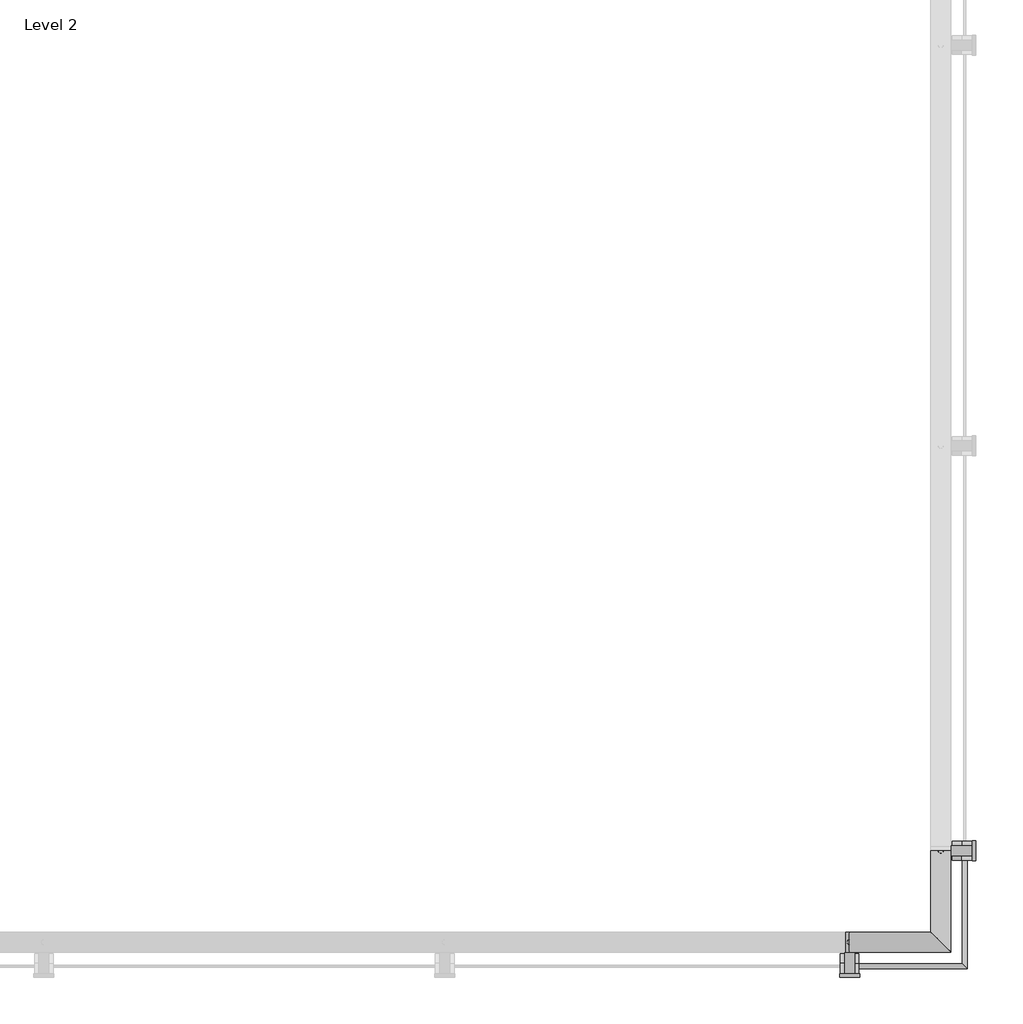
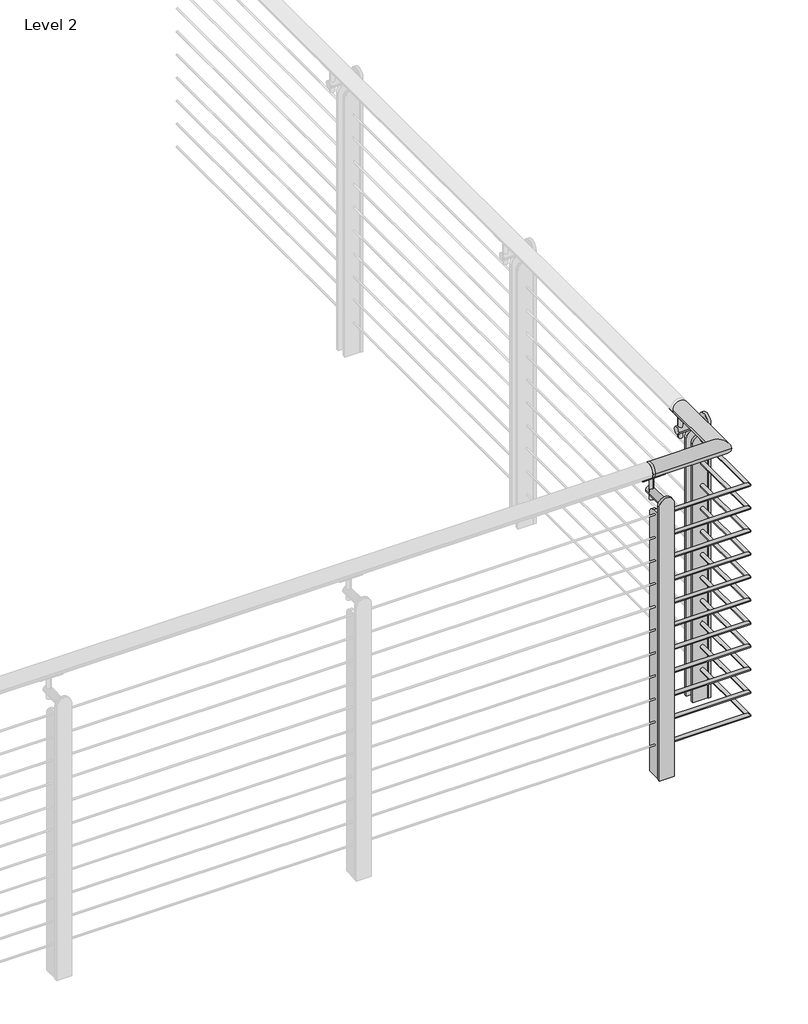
# One storey, part 11 of 12: 1 railing.
"""IFC4 building model written with IfcOpenShell, lengths in millimetres."""

from ifc_helpers import new_model, si_unit, point, frame, frame_2d, origin, place, context, project, spatial, polyline, circle_curve, ellipse_curve, trimmed, segment, composite_curve, outline, extrude, element, save
from ifc_brep_helpers import plane_surface, cylinder_surface, advanced_brep

model = new_model("IFC4")

# Units and contexts
model_context = context("Model", 3, world=origin())
ifc_project = project(units=[si_unit("LENGTHUNIT", "METRE", prefix="MILLI")], contexts=[model_context])

# Site, building, storey
site = spatial("IfcSite", under=ifc_project)
building = spatial("IfcBuilding", under=site)
storey = spatial("IfcBuildingStorey", under=building, Name="Level 2", Elevation=3048.0)

# Railing
placement = place(None, origin())
element("IfcRailing", 1, ObjectType="VIVA-TEE-Cable-Weld Mount-Corner", at=placement, inside=storey, context=model_context, shape_type="SolidModel", body=[
    advanced_brep(
    [(-4005.475548, -1067.8784511, 4102.1), (-4005.475548, -1118.6784511, 4102.1), (-3748.300548, -1118.6784511, 4102.1), (-3799.100548, -1067.8784511, 4102.1), (-4015.9071725, -1118.6784511, 4102.1), (-4015.9071725, -1067.8784511, 4102.1), (-3748.300548, -861.5034511, 4102.1), (-3799.100548, -861.5034511, 4102.1)],
    [
        (0, 1, circle_curve(frame((-4005.475548, -1093.2784511, 4102.1), z_axis=(1.0, 0.0, 0.0), x_axis=(0.0, 1.0, 0.0)), 25.4)),
        (1, 2),
        (2, 3, ellipse_curve(frame((-3773.700548, -1093.2784511, 4102.1), z_axis=(-0.7071067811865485, -0.7071067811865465, 0.0), x_axis=(-0.7071067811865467, 0.7071067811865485, 0.0)), 35.9210245, 25.4)),
        (3, 0),
        (1, 0, circle_curve(frame((-4005.475548, -1093.2784511, 4102.1), z_axis=(1.0, 0.0, 0.0), x_axis=(0.0, 1.0, 0.0)), 25.4)),
        (3, 2, ellipse_curve(frame((-3773.700548, -1093.2784511, 4102.1), z_axis=(-0.7071067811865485, -0.7071067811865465, 0.0), x_axis=(-0.7071067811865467, 0.7071067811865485, 0.0)), 35.9210245, 25.4)),
        (4, 5, circle_curve(frame((-4015.9071725, -1093.2784511, 4102.1), z_axis=(-1.0, 0.0, 0.0), x_axis=(0.0, 1.0, 0.0)), 25.4)),
        (5, 4, circle_curve(frame((-4015.9071725, -1093.2784511, 4102.1), z_axis=(-1.0, 0.0, 0.0), x_axis=(0.0, 1.0, 0.0)), 25.4)),
        (4, 1),
        (0, 5),
        (6, 7, circle_curve(frame((-3773.700548, -861.5034511, 4102.1), z_axis=(0.0, 1.0, 0.0), x_axis=(-1.0, 0.0, 0.0)), 25.4)),
        (7, 6, circle_curve(frame((-3773.700548, -861.5034511, 4102.1), z_axis=(0.0, 1.0, 0.0), x_axis=(-1.0, 0.0, 0.0)), 25.4)),
        (2, 6),
        (7, 3),
    ],
    [
        cylinder_surface(frame((-4005.475548, -1093.2784511, 4102.1), z_axis=(-1.0, 0.0, 0.0), x_axis=(0.0, 1.0, 0.0)), 25.4),
        plane_surface(frame((-4015.9071725, -1093.2784511, 4127.5), z_axis=(-1.0, 0.0, 0.0), x_axis=(0.0, 1.0, 0.0))),
        cylinder_surface(frame((-4015.9071725, -1093.2784511, 4102.1), z_axis=(-1.0, 0.0, 0.0), x_axis=(0.0, 1.0, 0.0)), 25.4),
        plane_surface(frame((-3773.700548, -861.5034511, 4127.5), z_axis=(0.0, 1.0, 0.0), x_axis=(0.0, 0.0, 1.0))),
        cylinder_surface(frame((-3773.700548, -1093.2784511, 4102.1), z_axis=(0.0, -1.0, 0.0), x_axis=(-1.0, 0.0, 0.0)), 25.4),
    ],
    [
        (0, [[1, 2, 3, 4]]),
        (0, [[5, -4, 6, -2]]),
        (1, [[7, 8]]),
        (2, [[-7, 9, -1, 10]]),
        (2, [[-8, -10, -5, -9]]),
        (3, [[11, 12]]),
        (4, [[-3, 13, -12, 14]]),
        (4, [[-6, -14, -11, -13]]),
    ],
),
    advanced_brep(
    [(-4005.475548, -1147.2534511, 3981.45), (-4005.475548, -1159.9534511, 3981.45), (-3719.725548, -1147.2534511, 3981.45), (-3707.025548, -1159.9534511, 3981.45), (-3719.725548, -861.5034511, 3981.45), (-3707.025548, -861.5034511, 3981.45)],
    [
        (0, 1, circle_curve(frame((-4005.475548, -1153.6034511, 3981.45), z_axis=(-1.0, 0.0, 0.0), x_axis=(0.0, -1.0, 0.0)), 6.35)),
        (1, 0, circle_curve(frame((-4005.475548, -1153.6034511, 3981.45), z_axis=(-1.0, 0.0, 0.0), x_axis=(0.0, -1.0, 0.0)), 6.35)),
        (0, 2),
        (2, 3, ellipse_curve(frame((-3713.375548, -1153.6034511, 3981.45), z_axis=(-0.7071067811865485, -0.7071067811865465, 0.0), x_axis=(-0.7071067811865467, 0.7071067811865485, 0.0)), 8.9802561, 6.35)),
        (3, 1),
        (3, 2, ellipse_curve(frame((-3713.375548, -1153.6034511, 3981.45), z_axis=(-0.7071067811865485, -0.7071067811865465, 0.0), x_axis=(-0.7071067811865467, 0.7071067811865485, 0.0)), 8.9802561, 6.35)),
        (4, 5, circle_curve(frame((-3713.375548, -861.5034511, 3981.45), z_axis=(0.0, 1.0, 0.0), x_axis=(1.0, 0.0, 0.0)), 6.35)),
        (5, 4, circle_curve(frame((-3713.375548, -861.5034511, 3981.45), z_axis=(0.0, 1.0, 0.0), x_axis=(1.0, 0.0, 0.0)), 6.35)),
        (2, 4),
        (5, 3),
    ],
    [
        plane_surface(frame((-4005.475548, -1153.6034511, 3987.8), z_axis=(-1.0, 0.0, 0.0), x_axis=(0.0, 1.0, 0.0))),
        cylinder_surface(frame((-4005.475548, -1153.6034511, 3981.45), z_axis=(-1.0, 0.0, 0.0), x_axis=(0.0, -1.0, 0.0)), 6.35),
        plane_surface(frame((-3713.375548, -861.5034511, 3987.8), z_axis=(0.0, 1.0, 0.0), x_axis=(0.0, 0.0, 1.0))),
        cylinder_surface(frame((-3713.375548, -1153.6034511, 3981.45), z_axis=(0.0, -1.0, 0.0), x_axis=(1.0, 0.0, 0.0)), 6.35),
    ],
    [
        (0, [[1, 2]]),
        (1, [[-1, 3, 4, 5]]),
        (1, [[-2, -5, 6, -3]]),
        (2, [[7, 8]]),
        (3, [[-4, 9, -8, 10]]),
        (3, [[-6, -10, -7, -9]]),
    ],
),
    advanced_brep(
    [(-4005.475548, -1147.2534511, 3898.9), (-4005.475548, -1159.9534511, 3898.9), (-3719.725548, -1147.2534511, 3898.9), (-3707.025548, -1159.9534511, 3898.9), (-3719.725548, -861.5034511, 3898.9), (-3707.025548, -861.5034511, 3898.9)],
    [
        (0, 1, circle_curve(frame((-4005.475548, -1153.6034511, 3898.9), z_axis=(-1.0, 0.0, 0.0), x_axis=(0.0, -1.0, 0.0)), 6.35)),
        (1, 0, circle_curve(frame((-4005.475548, -1153.6034511, 3898.9), z_axis=(-1.0, 0.0, 0.0), x_axis=(0.0, -1.0, 0.0)), 6.35)),
        (0, 2),
        (2, 3, ellipse_curve(frame((-3713.375548, -1153.6034511, 3898.9), z_axis=(-0.7071067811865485, -0.7071067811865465, 0.0), x_axis=(-0.7071067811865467, 0.7071067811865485, 0.0)), 8.9802561, 6.35)),
        (3, 1),
        (3, 2, ellipse_curve(frame((-3713.375548, -1153.6034511, 3898.9), z_axis=(-0.7071067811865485, -0.7071067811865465, 0.0), x_axis=(-0.7071067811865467, 0.7071067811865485, 0.0)), 8.9802561, 6.35)),
        (4, 5, circle_curve(frame((-3713.375548, -861.5034511, 3898.9), z_axis=(0.0, 1.0, 0.0), x_axis=(1.0, 0.0, 0.0)), 6.35)),
        (5, 4, circle_curve(frame((-3713.375548, -861.5034511, 3898.9), z_axis=(0.0, 1.0, 0.0), x_axis=(1.0, 0.0, 0.0)), 6.35)),
        (2, 4),
        (5, 3),
    ],
    [
        plane_surface(frame((-4005.475548, -1153.6034511, 3905.25), z_axis=(-1.0, 0.0, 0.0), x_axis=(0.0, 1.0, 0.0))),
        cylinder_surface(frame((-4005.475548, -1153.6034511, 3898.9), z_axis=(-1.0, 0.0, 0.0), x_axis=(0.0, -1.0, 0.0)), 6.35),
        plane_surface(frame((-3713.375548, -861.5034511, 3905.25), z_axis=(0.0, 1.0, 0.0), x_axis=(0.0, 0.0, 1.0))),
        cylinder_surface(frame((-3713.375548, -1153.6034511, 3898.9), z_axis=(0.0, -1.0, 0.0), x_axis=(1.0, 0.0, 0.0)), 6.35),
    ],
    [
        (0, [[1, 2]]),
        (1, [[-1, 3, 4, 5]]),
        (1, [[-2, -5, 6, -3]]),
        (2, [[7, 8]]),
        (3, [[-4, 9, -8, 10]]),
        (3, [[-6, -10, -7, -9]]),
    ],
),
    advanced_brep(
    [(-4005.475548, -1147.2534511, 3816.35), (-4005.475548, -1159.9534511, 3816.35), (-3719.725548, -1147.2534511, 3816.35), (-3707.025548, -1159.9534511, 3816.35), (-3719.725548, -861.5034511, 3816.35), (-3707.025548, -861.5034511, 3816.35)],
    [
        (0, 1, circle_curve(frame((-4005.475548, -1153.6034511, 3816.35), z_axis=(-1.0, 0.0, 0.0), x_axis=(0.0, -1.0, 0.0)), 6.35)),
        (1, 0, circle_curve(frame((-4005.475548, -1153.6034511, 3816.35), z_axis=(-1.0, 0.0, 0.0), x_axis=(0.0, -1.0, 0.0)), 6.35)),
        (0, 2),
        (2, 3, ellipse_curve(frame((-3713.375548, -1153.6034511, 3816.35), z_axis=(-0.7071067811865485, -0.7071067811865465, 0.0), x_axis=(-0.7071067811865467, 0.7071067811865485, 0.0)), 8.9802561, 6.35)),
        (3, 1),
        (3, 2, ellipse_curve(frame((-3713.375548, -1153.6034511, 3816.35), z_axis=(-0.7071067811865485, -0.7071067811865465, 0.0), x_axis=(-0.7071067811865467, 0.7071067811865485, 0.0)), 8.9802561, 6.35)),
        (4, 5, circle_curve(frame((-3713.375548, -861.5034511, 3816.35), z_axis=(0.0, 1.0, 0.0), x_axis=(1.0, 0.0, 0.0)), 6.35)),
        (5, 4, circle_curve(frame((-3713.375548, -861.5034511, 3816.35), z_axis=(0.0, 1.0, 0.0), x_axis=(1.0, 0.0, 0.0)), 6.35)),
        (2, 4),
        (5, 3),
    ],
    [
        plane_surface(frame((-4005.475548, -1153.6034511, 3822.7), z_axis=(-1.0, 0.0, 0.0), x_axis=(0.0, 1.0, 0.0))),
        cylinder_surface(frame((-4005.475548, -1153.6034511, 3816.35), z_axis=(-1.0, 0.0, 0.0), x_axis=(0.0, -1.0, 0.0)), 6.35),
        plane_surface(frame((-3713.375548, -861.5034511, 3822.7), z_axis=(0.0, 1.0, 0.0), x_axis=(0.0, 0.0, 1.0))),
        cylinder_surface(frame((-3713.375548, -1153.6034511, 3816.35), z_axis=(0.0, -1.0, 0.0), x_axis=(1.0, 0.0, 0.0)), 6.35),
    ],
    [
        (0, [[1, 2]]),
        (1, [[-1, 3, 4, 5]]),
        (1, [[-2, -5, 6, -3]]),
        (2, [[7, 8]]),
        (3, [[-4, 9, -8, 10]]),
        (3, [[-6, -10, -7, -9]]),
    ],
),
    advanced_brep(
    [(-4005.475548, -1147.2534511, 3733.8), (-4005.475548, -1159.9534511, 3733.8), (-3719.725548, -1147.2534511, 3733.8), (-3707.025548, -1159.9534511, 3733.8), (-3719.725548, -861.5034511, 3733.8), (-3707.025548, -861.5034511, 3733.8)],
    [
        (0, 1, circle_curve(frame((-4005.475548, -1153.6034511, 3733.8), z_axis=(-1.0, 0.0, 0.0), x_axis=(0.0, -1.0, 0.0)), 6.35)),
        (1, 0, circle_curve(frame((-4005.475548, -1153.6034511, 3733.8), z_axis=(-1.0, 0.0, 0.0), x_axis=(0.0, -1.0, 0.0)), 6.35)),
        (0, 2),
        (2, 3, ellipse_curve(frame((-3713.375548, -1153.6034511, 3733.8), z_axis=(-0.7071067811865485, -0.7071067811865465, 0.0), x_axis=(-0.7071067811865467, 0.7071067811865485, 0.0)), 8.9802561, 6.35)),
        (3, 1),
        (3, 2, ellipse_curve(frame((-3713.375548, -1153.6034511, 3733.8), z_axis=(-0.7071067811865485, -0.7071067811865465, 0.0), x_axis=(-0.7071067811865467, 0.7071067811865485, 0.0)), 8.9802561, 6.35)),
        (4, 5, circle_curve(frame((-3713.375548, -861.5034511, 3733.8), z_axis=(0.0, 1.0, 0.0), x_axis=(1.0, 0.0, 0.0)), 6.35)),
        (5, 4, circle_curve(frame((-3713.375548, -861.5034511, 3733.8), z_axis=(0.0, 1.0, 0.0), x_axis=(1.0, 0.0, 0.0)), 6.35)),
        (2, 4),
        (5, 3),
    ],
    [
        plane_surface(frame((-4005.475548, -1153.6034511, 3740.15), z_axis=(-1.0, 0.0, 0.0), x_axis=(0.0, 1.0, 0.0))),
        cylinder_surface(frame((-4005.475548, -1153.6034511, 3733.8), z_axis=(-1.0, 0.0, 0.0), x_axis=(0.0, -1.0, 0.0)), 6.35),
        plane_surface(frame((-3713.375548, -861.5034511, 3740.15), z_axis=(0.0, 1.0, 0.0), x_axis=(0.0, 0.0, 1.0))),
        cylinder_surface(frame((-3713.375548, -1153.6034511, 3733.8), z_axis=(0.0, -1.0, 0.0), x_axis=(1.0, 0.0, 0.0)), 6.35),
    ],
    [
        (0, [[1, 2]]),
        (1, [[-1, 3, 4, 5]]),
        (1, [[-2, -5, 6, -3]]),
        (2, [[7, 8]]),
        (3, [[-4, 9, -8, 10]]),
        (3, [[-6, -10, -7, -9]]),
    ],
),
    advanced_brep(
    [(-4005.475548, -1147.2534511, 3651.25), (-4005.475548, -1159.9534511, 3651.25), (-3719.725548, -1147.2534511, 3651.25), (-3707.025548, -1159.9534511, 3651.25), (-3719.725548, -861.5034511, 3651.25), (-3707.025548, -861.5034511, 3651.25)],
    [
        (0, 1, circle_curve(frame((-4005.475548, -1153.6034511, 3651.25), z_axis=(-1.0, 0.0, 0.0), x_axis=(0.0, -1.0, 0.0)), 6.35)),
        (1, 0, circle_curve(frame((-4005.475548, -1153.6034511, 3651.25), z_axis=(-1.0, 0.0, 0.0), x_axis=(0.0, -1.0, 0.0)), 6.35)),
        (0, 2),
        (2, 3, ellipse_curve(frame((-3713.375548, -1153.6034511, 3651.25), z_axis=(-0.7071067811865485, -0.7071067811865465, 0.0), x_axis=(-0.7071067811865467, 0.7071067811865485, 0.0)), 8.9802561, 6.35)),
        (3, 1),
        (3, 2, ellipse_curve(frame((-3713.375548, -1153.6034511, 3651.25), z_axis=(-0.7071067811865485, -0.7071067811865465, 0.0), x_axis=(-0.7071067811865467, 0.7071067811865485, 0.0)), 8.9802561, 6.35)),
        (4, 5, circle_curve(frame((-3713.375548, -861.5034511, 3651.25), z_axis=(0.0, 1.0, 0.0), x_axis=(1.0, 0.0, 0.0)), 6.35)),
        (5, 4, circle_curve(frame((-3713.375548, -861.5034511, 3651.25), z_axis=(0.0, 1.0, 0.0), x_axis=(1.0, 0.0, 0.0)), 6.35)),
        (2, 4),
        (5, 3),
    ],
    [
        plane_surface(frame((-4005.475548, -1153.6034511, 3657.6), z_axis=(-1.0, 0.0, 0.0), x_axis=(0.0, 1.0, 0.0))),
        cylinder_surface(frame((-4005.475548, -1153.6034511, 3651.25), z_axis=(-1.0, 0.0, 0.0), x_axis=(0.0, -1.0, 0.0)), 6.35),
        plane_surface(frame((-3713.375548, -861.5034511, 3657.6), z_axis=(0.0, 1.0, 0.0), x_axis=(0.0, 0.0, 1.0))),
        cylinder_surface(frame((-3713.375548, -1153.6034511, 3651.25), z_axis=(0.0, -1.0, 0.0), x_axis=(1.0, 0.0, 0.0)), 6.35),
    ],
    [
        (0, [[1, 2]]),
        (1, [[-1, 3, 4, 5]]),
        (1, [[-2, -5, 6, -3]]),
        (2, [[7, 8]]),
        (3, [[-4, 9, -8, 10]]),
        (3, [[-6, -10, -7, -9]]),
    ],
),
    advanced_brep(
    [(-4005.475548, -1147.2534511, 3568.7), (-4005.475548, -1159.9534511, 3568.7), (-3719.725548, -1147.2534511, 3568.7), (-3707.025548, -1159.9534511, 3568.7), (-3719.725548, -861.5034511, 3568.7), (-3707.025548, -861.5034511, 3568.7)],
    [
        (0, 1, circle_curve(frame((-4005.475548, -1153.6034511, 3568.7), z_axis=(-1.0, 0.0, 0.0), x_axis=(0.0, -1.0, 0.0)), 6.35)),
        (1, 0, circle_curve(frame((-4005.475548, -1153.6034511, 3568.7), z_axis=(-1.0, 0.0, 0.0), x_axis=(0.0, -1.0, 0.0)), 6.35)),
        (0, 2),
        (2, 3, ellipse_curve(frame((-3713.375548, -1153.6034511, 3568.7), z_axis=(-0.7071067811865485, -0.7071067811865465, 0.0), x_axis=(-0.7071067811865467, 0.7071067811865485, 0.0)), 8.9802561, 6.35)),
        (3, 1),
        (3, 2, ellipse_curve(frame((-3713.375548, -1153.6034511, 3568.7), z_axis=(-0.7071067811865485, -0.7071067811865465, 0.0), x_axis=(-0.7071067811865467, 0.7071067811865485, 0.0)), 8.9802561, 6.35)),
        (4, 5, circle_curve(frame((-3713.375548, -861.5034511, 3568.7), z_axis=(0.0, 1.0, 0.0), x_axis=(1.0, 0.0, 0.0)), 6.35)),
        (5, 4, circle_curve(frame((-3713.375548, -861.5034511, 3568.7), z_axis=(0.0, 1.0, 0.0), x_axis=(1.0, 0.0, 0.0)), 6.35)),
        (2, 4),
        (5, 3),
    ],
    [
        plane_surface(frame((-4005.475548, -1153.6034511, 3575.05), z_axis=(-1.0, 0.0, 0.0), x_axis=(0.0, 1.0, 0.0))),
        cylinder_surface(frame((-4005.475548, -1153.6034511, 3568.7), z_axis=(-1.0, 0.0, 0.0), x_axis=(0.0, -1.0, 0.0)), 6.35),
        plane_surface(frame((-3713.375548, -861.5034511, 3575.05), z_axis=(0.0, 1.0, 0.0), x_axis=(0.0, 0.0, 1.0))),
        cylinder_surface(frame((-3713.375548, -1153.6034511, 3568.7), z_axis=(0.0, -1.0, 0.0), x_axis=(1.0, 0.0, 0.0)), 6.35),
    ],
    [
        (0, [[1, 2]]),
        (1, [[-1, 3, 4, 5]]),
        (1, [[-2, -5, 6, -3]]),
        (2, [[7, 8]]),
        (3, [[-4, 9, -8, 10]]),
        (3, [[-6, -10, -7, -9]]),
    ],
),
    advanced_brep(
    [(-4005.475548, -1147.2534511, 3486.15), (-4005.475548, -1159.9534511, 3486.15), (-3719.725548, -1147.2534511, 3486.15), (-3707.025548, -1159.9534511, 3486.15), (-3719.725548, -861.5034511, 3486.15), (-3707.025548, -861.5034511, 3486.15)],
    [
        (0, 1, circle_curve(frame((-4005.475548, -1153.6034511, 3486.15), z_axis=(-1.0, 0.0, 0.0), x_axis=(0.0, -1.0, 0.0)), 6.35)),
        (1, 0, circle_curve(frame((-4005.475548, -1153.6034511, 3486.15), z_axis=(-1.0, 0.0, 0.0), x_axis=(0.0, -1.0, 0.0)), 6.35)),
        (0, 2),
        (2, 3, ellipse_curve(frame((-3713.375548, -1153.6034511, 3486.15), z_axis=(-0.7071067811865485, -0.7071067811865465, 0.0), x_axis=(-0.7071067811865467, 0.7071067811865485, 0.0)), 8.9802561, 6.35)),
        (3, 1),
        (3, 2, ellipse_curve(frame((-3713.375548, -1153.6034511, 3486.15), z_axis=(-0.7071067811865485, -0.7071067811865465, 0.0), x_axis=(-0.7071067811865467, 0.7071067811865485, 0.0)), 8.9802561, 6.35)),
        (4, 5, circle_curve(frame((-3713.375548, -861.5034511, 3486.15), z_axis=(0.0, 1.0, 0.0), x_axis=(1.0, 0.0, 0.0)), 6.35)),
        (5, 4, circle_curve(frame((-3713.375548, -861.5034511, 3486.15), z_axis=(0.0, 1.0, 0.0), x_axis=(1.0, 0.0, 0.0)), 6.35)),
        (2, 4),
        (5, 3),
    ],
    [
        plane_surface(frame((-4005.475548, -1153.6034511, 3492.5), z_axis=(-1.0, 0.0, 0.0), x_axis=(0.0, 1.0, 0.0))),
        cylinder_surface(frame((-4005.475548, -1153.6034511, 3486.15), z_axis=(-1.0, 0.0, 0.0), x_axis=(0.0, -1.0, 0.0)), 6.35),
        plane_surface(frame((-3713.375548, -861.5034511, 3492.5), z_axis=(0.0, 1.0, 0.0), x_axis=(0.0, 0.0, 1.0))),
        cylinder_surface(frame((-3713.375548, -1153.6034511, 3486.15), z_axis=(0.0, -1.0, 0.0), x_axis=(1.0, 0.0, 0.0)), 6.35),
    ],
    [
        (0, [[1, 2]]),
        (1, [[-1, 3, 4, 5]]),
        (1, [[-2, -5, 6, -3]]),
        (2, [[7, 8]]),
        (3, [[-4, 9, -8, 10]]),
        (3, [[-6, -10, -7, -9]]),
    ],
),
    advanced_brep(
    [(-4005.475548, -1147.2534511, 3403.6), (-4005.475548, -1159.9534511, 3403.6), (-3719.725548, -1147.2534511, 3403.6), (-3707.025548, -1159.9534511, 3403.6), (-3719.725548, -861.5034511, 3403.6), (-3707.025548, -861.5034511, 3403.6)],
    [
        (0, 1, circle_curve(frame((-4005.475548, -1153.6034511, 3403.6), z_axis=(-1.0, 0.0, 0.0), x_axis=(0.0, -1.0, 0.0)), 6.35)),
        (1, 0, circle_curve(frame((-4005.475548, -1153.6034511, 3403.6), z_axis=(-1.0, 0.0, 0.0), x_axis=(0.0, -1.0, 0.0)), 6.35)),
        (0, 2),
        (2, 3, ellipse_curve(frame((-3713.375548, -1153.6034511, 3403.6), z_axis=(-0.7071067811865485, -0.7071067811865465, 0.0), x_axis=(-0.7071067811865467, 0.7071067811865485, 0.0)), 8.9802561, 6.35)),
        (3, 1),
        (3, 2, ellipse_curve(frame((-3713.375548, -1153.6034511, 3403.6), z_axis=(-0.7071067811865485, -0.7071067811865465, 0.0), x_axis=(-0.7071067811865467, 0.7071067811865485, 0.0)), 8.9802561, 6.35)),
        (4, 5, circle_curve(frame((-3713.375548, -861.5034511, 3403.6), z_axis=(0.0, 1.0, 0.0), x_axis=(1.0, 0.0, 0.0)), 6.35)),
        (5, 4, circle_curve(frame((-3713.375548, -861.5034511, 3403.6), z_axis=(0.0, 1.0, 0.0), x_axis=(1.0, 0.0, 0.0)), 6.35)),
        (2, 4),
        (5, 3),
    ],
    [
        plane_surface(frame((-4005.475548, -1153.6034511, 3409.95), z_axis=(-1.0, 0.0, 0.0), x_axis=(0.0, 1.0, 0.0))),
        cylinder_surface(frame((-4005.475548, -1153.6034511, 3403.6), z_axis=(-1.0, 0.0, 0.0), x_axis=(0.0, -1.0, 0.0)), 6.35),
        plane_surface(frame((-3713.375548, -861.5034511, 3409.95), z_axis=(0.0, 1.0, 0.0), x_axis=(0.0, 0.0, 1.0))),
        cylinder_surface(frame((-3713.375548, -1153.6034511, 3403.6), z_axis=(0.0, -1.0, 0.0), x_axis=(1.0, 0.0, 0.0)), 6.35),
    ],
    [
        (0, [[1, 2]]),
        (1, [[-1, 3, 4, 5]]),
        (1, [[-2, -5, 6, -3]]),
        (2, [[7, 8]]),
        (3, [[-4, 9, -8, 10]]),
        (3, [[-6, -10, -7, -9]]),
    ],
),
    advanced_brep(
    [(-4005.475548, -1147.2534511, 3321.05), (-4005.475548, -1159.9534511, 3321.05), (-3719.725548, -1147.2534511, 3321.05), (-3707.025548, -1159.9534511, 3321.05), (-3719.725548, -861.5034511, 3321.05), (-3707.025548, -861.5034511, 3321.05)],
    [
        (0, 1, circle_curve(frame((-4005.475548, -1153.6034511, 3321.05), z_axis=(-1.0, 0.0, 0.0), x_axis=(0.0, -1.0, 0.0)), 6.35)),
        (1, 0, circle_curve(frame((-4005.475548, -1153.6034511, 3321.05), z_axis=(-1.0, 0.0, 0.0), x_axis=(0.0, -1.0, 0.0)), 6.35)),
        (0, 2),
        (2, 3, ellipse_curve(frame((-3713.375548, -1153.6034511, 3321.05), z_axis=(-0.7071067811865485, -0.7071067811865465, 0.0), x_axis=(-0.7071067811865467, 0.7071067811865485, 0.0)), 8.9802561, 6.35)),
        (3, 1),
        (3, 2, ellipse_curve(frame((-3713.375548, -1153.6034511, 3321.05), z_axis=(-0.7071067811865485, -0.7071067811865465, 0.0), x_axis=(-0.7071067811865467, 0.7071067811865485, 0.0)), 8.9802561, 6.35)),
        (4, 5, circle_curve(frame((-3713.375548, -861.5034511, 3321.05), z_axis=(0.0, 1.0, 0.0), x_axis=(1.0, 0.0, 0.0)), 6.35)),
        (5, 4, circle_curve(frame((-3713.375548, -861.5034511, 3321.05), z_axis=(0.0, 1.0, 0.0), x_axis=(1.0, 0.0, 0.0)), 6.35)),
        (2, 4),
        (5, 3),
    ],
    [
        plane_surface(frame((-4005.475548, -1153.6034511, 3327.4), z_axis=(-1.0, 0.0, 0.0), x_axis=(0.0, 1.0, 0.0))),
        cylinder_surface(frame((-4005.475548, -1153.6034511, 3321.05), z_axis=(-1.0, 0.0, 0.0), x_axis=(0.0, -1.0, 0.0)), 6.35),
        plane_surface(frame((-3713.375548, -861.5034511, 3327.4), z_axis=(0.0, 1.0, 0.0), x_axis=(0.0, 0.0, 1.0))),
        cylinder_surface(frame((-3713.375548, -1153.6034511, 3321.05), z_axis=(0.0, -1.0, 0.0), x_axis=(1.0, 0.0, 0.0)), 6.35),
    ],
    [
        (0, [[1, 2]]),
        (1, [[-1, 3, 4, 5]]),
        (1, [[-2, -5, 6, -3]]),
        (2, [[7, 8]]),
        (3, [[-4, 9, -8, 10]]),
        (3, [[-6, -10, -7, -9]]),
    ],
),
    advanced_brep(
    [(-4005.475548, -1147.2534511, 3238.5), (-4005.475548, -1159.9534511, 3238.5), (-3719.725548, -1147.2534511, 3238.5), (-3707.025548, -1159.9534511, 3238.5), (-3719.725548, -861.5034511, 3238.5), (-3707.025548, -861.5034511, 3238.5)],
    [
        (0, 1, circle_curve(frame((-4005.475548, -1153.6034511, 3238.5), z_axis=(-1.0, 0.0, 0.0), x_axis=(0.0, -1.0, 0.0)), 6.35)),
        (1, 0, circle_curve(frame((-4005.475548, -1153.6034511, 3238.5), z_axis=(-1.0, 0.0, 0.0), x_axis=(0.0, -1.0, 0.0)), 6.35)),
        (0, 2),
        (2, 3, ellipse_curve(frame((-3713.375548, -1153.6034511, 3238.5), z_axis=(-0.7071067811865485, -0.7071067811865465, 0.0), x_axis=(-0.7071067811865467, 0.7071067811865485, 0.0)), 8.9802561, 6.35)),
        (3, 1),
        (3, 2, ellipse_curve(frame((-3713.375548, -1153.6034511, 3238.5), z_axis=(-0.7071067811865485, -0.7071067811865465, 0.0), x_axis=(-0.7071067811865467, 0.7071067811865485, 0.0)), 8.9802561, 6.35)),
        (4, 5, circle_curve(frame((-3713.375548, -861.5034511, 3238.5), z_axis=(0.0, 1.0, 0.0), x_axis=(1.0, 0.0, 0.0)), 6.35)),
        (5, 4, circle_curve(frame((-3713.375548, -861.5034511, 3238.5), z_axis=(0.0, 1.0, 0.0), x_axis=(1.0, 0.0, 0.0)), 6.35)),
        (2, 4),
        (5, 3),
    ],
    [
        plane_surface(frame((-4005.475548, -1153.6034511, 3244.85), z_axis=(-1.0, 0.0, 0.0), x_axis=(0.0, 1.0, 0.0))),
        cylinder_surface(frame((-4005.475548, -1153.6034511, 3238.5), z_axis=(-1.0, 0.0, 0.0), x_axis=(0.0, -1.0, 0.0)), 6.35),
        plane_surface(frame((-3713.375548, -861.5034511, 3244.85), z_axis=(0.0, 1.0, 0.0), x_axis=(0.0, 0.0, 1.0))),
        cylinder_surface(frame((-3713.375548, -1153.6034511, 3238.5), z_axis=(0.0, -1.0, 0.0), x_axis=(1.0, 0.0, 0.0)), 6.35),
    ],
    [
        (0, [[1, 2]]),
        (1, [[-1, 3, 4, 5]]),
        (1, [[-2, -5, 6, -3]]),
        (2, [[7, 8]]),
        (3, [[-4, 9, -8, 10]]),
        (3, [[-6, -10, -7, -9]]),
    ],
),
    advanced_brep(
    [(-4005.475548, -1147.2534511, 3155.95), (-4005.475548, -1159.9534511, 3155.95), (-3719.725548, -1147.2534511, 3155.95), (-3707.025548, -1159.9534511, 3155.95), (-3719.725548, -861.5034511, 3155.95), (-3707.025548, -861.5034511, 3155.95)],
    [
        (0, 1, circle_curve(frame((-4005.475548, -1153.6034511, 3155.95), z_axis=(-1.0, 0.0, 0.0), x_axis=(0.0, -1.0, 0.0)), 6.35)),
        (1, 0, circle_curve(frame((-4005.475548, -1153.6034511, 3155.95), z_axis=(-1.0, 0.0, 0.0), x_axis=(0.0, -1.0, 0.0)), 6.35)),
        (0, 2),
        (2, 3, ellipse_curve(frame((-3713.375548, -1153.6034511, 3155.95), z_axis=(-0.7071067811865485, -0.7071067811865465, 0.0), x_axis=(-0.7071067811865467, 0.7071067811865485, 0.0)), 8.9802561, 6.35)),
        (3, 1),
        (3, 2, ellipse_curve(frame((-3713.375548, -1153.6034511, 3155.95), z_axis=(-0.7071067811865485, -0.7071067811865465, 0.0), x_axis=(-0.7071067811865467, 0.7071067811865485, 0.0)), 8.9802561, 6.35)),
        (4, 5, circle_curve(frame((-3713.375548, -861.5034511, 3155.95), z_axis=(0.0, 1.0, 0.0), x_axis=(1.0, 0.0, 0.0)), 6.35)),
        (5, 4, circle_curve(frame((-3713.375548, -861.5034511, 3155.95), z_axis=(0.0, 1.0, 0.0), x_axis=(1.0, 0.0, 0.0)), 6.35)),
        (2, 4),
        (5, 3),
    ],
    [
        plane_surface(frame((-4005.475548, -1153.6034511, 3162.3), z_axis=(-1.0, 0.0, 0.0), x_axis=(0.0, 1.0, 0.0))),
        cylinder_surface(frame((-4005.475548, -1153.6034511, 3155.95), z_axis=(-1.0, 0.0, 0.0), x_axis=(0.0, -1.0, 0.0)), 6.35),
        plane_surface(frame((-3713.375548, -861.5034511, 3162.3), z_axis=(0.0, 1.0, 0.0), x_axis=(0.0, 0.0, 1.0))),
        cylinder_surface(frame((-3713.375548, -1153.6034511, 3155.95), z_axis=(0.0, -1.0, 0.0), x_axis=(1.0, 0.0, 0.0)), 6.35),
    ],
    [
        (0, [[1, 2]]),
        (1, [[-1, 3, 4, 5]]),
        (1, [[-2, -5, 6, -3]]),
        (2, [[7, 8]]),
        (3, [[-4, 9, -8, 10]]),
        (3, [[-6, -10, -7, -9]]),
    ],
),
    extrude(outline(composite_curve([segment(trimmed(circle_curve(frame_2d((0.0, 7.0)), 7.0), [point((0.0, 14.0))], [point((0.0, 0.0))], False, "CARTESIAN"), True, "CONTINUOUS"), segment(trimmed(circle_curve(frame_2d((0.0, 7.0)), 7.0), [point((0.0, 0.0))], [point((0.0, 14.0))], False, "CARTESIAN"), True, "CONTINUOUS")], self_intersect=False)), frame((-3766.9906942, -861.4297412, 3997.1832524), z_axis=(0.0, 0.004253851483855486, 0.9999909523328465), x_axis=(0.0, 0.9999909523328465, -0.004253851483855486)), (0.0, 0.0, 1.0), 75.97),
    extrude(outline(composite_curve([segment(trimmed(circle_curve(frame_2d((4095.2025651, -3774.1320982)), 19.05), [point((4081.7916463, -3760.60251))], [point((4081.7916463, -3787.6616864))], True, "CARTESIAN"), True, "CONTINUOUS"), segment(polyline([(4081.7916463, -3787.6616864), (4080.7742593, -3788.688076)]), True, "CONTINUOUS"), segment(trimmed(circle_curve(frame_2d((4079.7089374, -3787.6320982)), 1.5), [point((4080.7742593, -3788.688076))], [point((4078.5780156, -3788.6174996))], False, "CARTESIAN"), True, "CONTINUOUS"), segment(trimmed(circle_curve(frame_2d((4095.2025651, -3774.1320982)), 22.05), [point((4078.5780156, -3788.6174996))], [point((4078.5780156, -3759.6466967))], False, "CARTESIAN"), True, "CONTINUOUS"), segment(trimmed(circle_curve(frame_2d((4079.7089374, -3760.6320982)), 1.5), [point((4078.5780156, -3759.6466967))], [point((4080.7742593, -3759.5761203))], False, "CARTESIAN"), True, "CONTINUOUS"), segment(polyline([(4080.7742593, -3759.5761203), (4081.7916463, -3760.60251)]), True, "CONTINUOUS")], self_intersect=False)), frame((0.0, -896.9682154, 0.0), z_axis=(0.0, 1.0, 0.0), x_axis=(0.0, 0.0, 1.0)), (0.0, 0.0, 1.0), 74.5229187),
    extrude(outline(composite_curve([segment(trimmed(circle_curve(frame_2d((-861.2254107, 4024.1259188)), 12.5), [point((-873.7254107, 4024.1259188))], [point((-848.7254107, 4024.1259188))], False, "CARTESIAN"), True, "CONTINUOUS"), segment(trimmed(circle_curve(frame_2d((-861.2254107, 4024.1259188)), 12.5), [point((-848.7254107, 4024.1259188))], [point((-873.7254107, 4024.1259188))], False, "CARTESIAN"), True, "CONTINUOUS")], self_intersect=False)), frame((-3786.6477082, 0.0, 0.0), z_axis=(1.0, 0.0, 0.0), x_axis=(0.0, 1.0, 0.0)), (0.0, 0.0, 1.0), 92.423),
    extrude(outline(composite_curve([segment(trimmed(circle_curve(frame_2d((3972.2425, -3720.3909995)), 24.765), [point((3997.0075, -3720.3909995))], [point((3972.2425, -3745.1559995))], False, "CARTESIAN"), True, "CONTINUOUS"), segment(polyline([(3972.2425, -3745.1559995), (3048.0, -3745.1559995), (3048.0, -3694.325548), (3997.0075, -3694.325548), (3997.0075, -3720.3909995)]), True, "CONTINUOUS")], self_intersect=False)), frame((0.0, -847.1030765, 0.0), z_axis=(0.0, 1.0, 0.0), x_axis=(0.0, 0.0, 1.0)), (0.0, 0.0, 1.0), 9.525),
    extrude(outline(composite_curve([segment(polyline([(-835.7065761, 3048.0), (-886.5065761, 3048.0), (-886.5065761, 4027.17)]), True, "CONTINUOUS"), segment(trimmed(circle_curve(frame_2d((-861.1065761, 4027.17)), 25.4), [point((-886.5065761, 4027.17))], [point((-835.7065761, 4027.17))], False, "CARTESIAN"), True, "CONTINUOUS"), segment(polyline([(-835.7065761, 4027.17), (-835.7065761, 3048.0)]), True, "CONTINUOUS")], self_intersect=False)), frame((-3694.325548, 0.0, 0.0), z_axis=(1.0, 0.0, 0.0), x_axis=(0.0, 1.0, 0.0)), (0.0, 0.0, 1.0), 9.525),
    extrude(outline(composite_curve([segment(trimmed(circle_curve(frame_2d((3972.2425, -3720.3909995)), 24.765), [point((3997.0075, -3720.3909995))], [point((3972.2425, -3745.1559995))], False, "CARTESIAN"), True, "CONTINUOUS"), segment(polyline([(3972.2425, -3745.1559995), (3048.0, -3745.1559995), (3048.0, -3694.325548), (3997.0075, -3694.325548), (3997.0075, -3720.3909995)]), True, "CONTINUOUS")], self_intersect=False)), frame((0.0, -884.6350757, 0.0), z_axis=(0.0, 1.0, 0.0), x_axis=(0.0, 0.0, 1.0)), (0.0, 0.0, 1.0), 9.525),
    extrude(outline(composite_curve([segment(trimmed(circle_curve(frame_2d((0.0, 7.0)), 7.0), [point((0.0, 14.0))], [point((0.0, 0.0))], False, "CARTESIAN"), True, "CONTINUOUS"), segment(trimmed(circle_curve(frame_2d((0.0, 7.0)), 7.0), [point((0.0, 0.0))], [point((0.0, 14.0))], False, "CARTESIAN"), True, "CONTINUOUS")], self_intersect=False)), frame((-4005.401838, -1099.9883049, 3997.1832524), z_axis=(0.004253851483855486, 0.0, 0.9999909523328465), x_axis=(0.9999909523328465, 0.0, -0.004253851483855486)), (0.0, 0.0, 1.0), 75.97),
    extrude(outline(composite_curve([segment(trimmed(circle_curve(frame_2d((-1092.8469009, 4095.2025651)), 19.05), [point((-1106.3764891, 4081.7916463))], [point((-1079.3173126, 4081.7916463))], True, "CARTESIAN"), True, "CONTINUOUS"), segment(polyline([(-1079.3173126, 4081.7916463), (-1078.290923, 4080.7742593)]), True, "CONTINUOUS"), segment(trimmed(circle_curve(frame_2d((-1079.3469009, 4079.7089374)), 1.5), [point((-1078.290923, 4080.7742593))], [point((-1078.3614994, 4078.5780156))], False, "CARTESIAN"), True, "CONTINUOUS"), segment(trimmed(circle_curve(frame_2d((-1092.8469009, 4095.2025651)), 22.05), [point((-1078.3614994, 4078.5780156))], [point((-1107.3323023, 4078.5780156))], False, "CARTESIAN"), True, "CONTINUOUS"), segment(trimmed(circle_curve(frame_2d((-1106.3469009, 4079.7089374)), 1.5), [point((-1107.3323023, 4078.5780156))], [point((-1107.4028787, 4080.7742593))], False, "CARTESIAN"), True, "CONTINUOUS"), segment(polyline([(-1107.4028787, 4080.7742593), (-1106.3764891, 4081.7916463)]), True, "CONTINUOUS")], self_intersect=False)), frame((-4040.9403122, 0.0, 0.0), z_axis=(1.0, 0.0, 0.0), x_axis=(0.0, 1.0, 0.0)), (0.0, 0.0, 1.0), 74.5229187),
    extrude(outline(composite_curve([segment(trimmed(circle_curve(frame_2d((4024.1259188, -4005.1975076)), 12.5), [point((4024.1259188, -4017.6975076))], [point((4024.1259188, -3992.6975076))], False, "CARTESIAN"), True, "CONTINUOUS"), segment(trimmed(circle_curve(frame_2d((4024.1259188, -4005.1975076)), 12.5), [point((4024.1259188, -3992.6975076))], [point((4024.1259188, -4017.6975076))], False, "CARTESIAN"), True, "CONTINUOUS")], self_intersect=False)), frame((0.0, -1172.7542908, 0.0), z_axis=(0.0, 1.0, 0.0), x_axis=(0.0, 0.0, 1.0)), (0.0, 0.0, 1.0), 92.423),
    extrude(outline(composite_curve([segment(trimmed(circle_curve(frame_2d((-1146.5879996, 3972.2425)), 24.765), [point((-1146.5879996, 3997.0075))], [point((-1121.8229996, 3972.2425))], False, "CARTESIAN"), True, "CONTINUOUS"), segment(polyline([(-1121.8229996, 3972.2425), (-1121.8229996, 3048.0), (-1172.6534511, 3048.0), (-1172.6534511, 3997.0075), (-1146.5879996, 3997.0075)]), True, "CONTINUOUS")], self_intersect=False)), frame((-3991.0751734, 0.0, 0.0), z_axis=(1.0, 0.0, 0.0), x_axis=(0.0, 1.0, 0.0)), (0.0, 0.0, 1.0), 9.525),
    extrude(outline(composite_curve([segment(polyline([(3048.0, -3979.678673), (4027.17, -3979.678673)]), True, "CONTINUOUS"), segment(trimmed(circle_curve(frame_2d((4027.17, -4005.078673)), 25.4), [point((4027.17, -3979.678673))], [point((4027.17, -4030.478673))], False, "CARTESIAN"), True, "CONTINUOUS"), segment(polyline([(4027.17, -4030.478673), (3048.0, -4030.478673), (3048.0, -3979.678673)]), True, "CONTINUOUS")], self_intersect=False)), frame((0.0, -1182.1784511, 0.0), z_axis=(0.0, 1.0, 0.0), x_axis=(0.0, 0.0, 1.0)), (0.0, 0.0, 1.0), 9.525),
    extrude(outline(composite_curve([segment(trimmed(circle_curve(frame_2d((-1146.5879996, 3972.2425)), 24.765), [point((-1146.5879996, 3997.0075))], [point((-1121.8229996, 3972.2425))], False, "CARTESIAN"), True, "CONTINUOUS"), segment(polyline([(-1121.8229996, 3972.2425), (-1121.8229996, 3048.0), (-1172.6534511, 3048.0), (-1172.6534511, 3997.0075), (-1146.5879996, 3997.0075)]), True, "CONTINUOUS")], self_intersect=False)), frame((-4028.6071725, 0.0, 0.0), z_axis=(1.0, 0.0, 0.0), x_axis=(0.0, 1.0, 0.0)), (0.0, 0.0, 1.0), 9.525),
])

save(model, "model.ifc")
